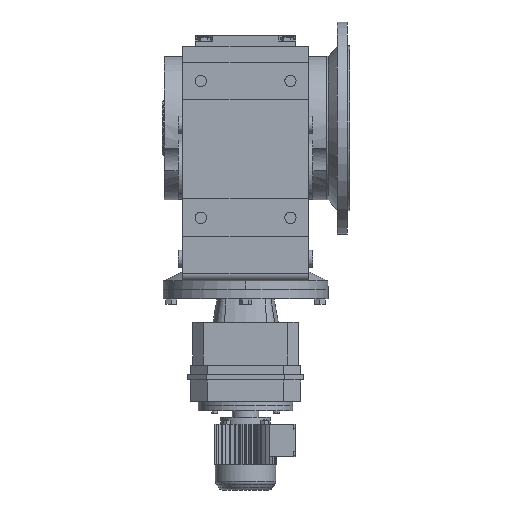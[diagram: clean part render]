
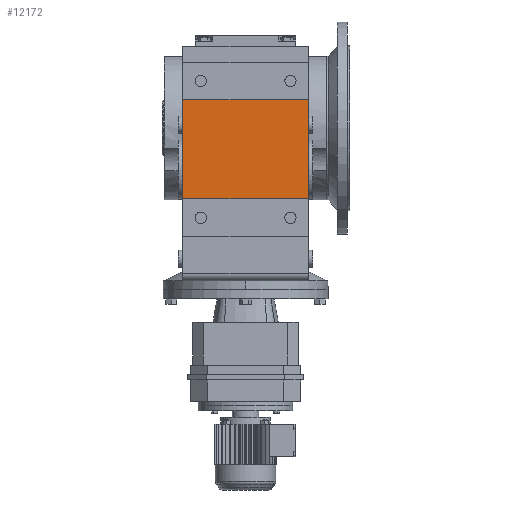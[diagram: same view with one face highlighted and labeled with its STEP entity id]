
A CAD part, front view. The second image highlights one B-rep face of the part: STEP entity #12172.
In plain terms, the highlighted planar face has unit normal (0, -1, 0).
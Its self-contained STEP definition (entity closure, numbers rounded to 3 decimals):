
#1055 = PLANE('',#1056);
#1056 = AXIS2_PLACEMENT_3D('',#1057,#1058,#1059);
#1057 = CARTESIAN_POINT('',(-133.,-287.975,-307.95));
#1058 = DIRECTION('',(-1.,0.,0.));
#1059 = DIRECTION('',(0.,0.,1.));
#5698 = VERTEX_POINT('',#5699);
#5699 = CARTESIAN_POINT('',(-133.,-303.975,-150.));
#5713 = PLANE('',#5714);
#5714 = AXIS2_PLACEMENT_3D('',#5715,#5716,#5717);
#5715 = CARTESIAN_POINT('',(-133.,-303.975,-150.));
#5716 = DIRECTION('',(0.,0.,1.));
#5717 = DIRECTION('',(0.,-1.,0.));
#5725 = EDGE_CURVE('',#5726,#5698,#5728,.T.);
#5726 = VERTEX_POINT('',#5727);
#5727 = CARTESIAN_POINT('',(-133.,-303.975,60.));
#5728 = SURFACE_CURVE('',#5729,(#5733,#5740),.PCURVE_S1.);
#5729 = LINE('',#5730,#5731);
#5730 = CARTESIAN_POINT('',(-133.,-303.975,60.));
#5731 = VECTOR('',#5732,1.);
#5732 = DIRECTION('',(0.,0.,-1.));
#5733 = PCURVE('',#1055,#5734);
#5734 = DEFINITIONAL_REPRESENTATION('',(#5735),#5739);
#5735 = LINE('',#5736,#5737);
#5736 = CARTESIAN_POINT('',(367.95,-16.));
#5737 = VECTOR('',#5738,1.);
#5738 = DIRECTION('',(-1.,0.));
#5739 = ( GEOMETRIC_REPRESENTATION_CONTEXT(2) 
PARAMETRIC_REPRESENTATION_CONTEXT() REPRESENTATION_CONTEXT('2D SPACE',''
  ) );
#5740 = PCURVE('',#5741,#5746);
#5741 = PLANE('',#5742);
#5742 = AXIS2_PLACEMENT_3D('',#5743,#5744,#5745);
#5743 = CARTESIAN_POINT('',(-133.,-303.975,60.));
#5744 = DIRECTION('',(0.,-1.,0.));
#5745 = DIRECTION('',(0.,0.,-1.));
#5746 = DEFINITIONAL_REPRESENTATION('',(#5747),#5751);
#5747 = LINE('',#5748,#5749);
#5748 = CARTESIAN_POINT('',(0.,0.));
#5749 = VECTOR('',#5750,1.);
#5750 = DIRECTION('',(1.,0.));
#5751 = ( GEOMETRIC_REPRESENTATION_CONTEXT(2) 
PARAMETRIC_REPRESENTATION_CONTEXT() REPRESENTATION_CONTEXT('2D SPACE',''
  ) );
#5769 = PLANE('',#5770);
#5770 = AXIS2_PLACEMENT_3D('',#5771,#5772,#5773);
#5771 = CARTESIAN_POINT('',(-133.,-303.975,60.));
#5772 = DIRECTION('',(0.,0.,-1.));
#5773 = DIRECTION('',(-1.,0.,0.));
#10232 = PLANE('',#10233);
#10233 = AXIS2_PLACEMENT_3D('',#10234,#10235,#10236);
#10234 = CARTESIAN_POINT('',(133.,-287.975,-307.95));
#10235 = DIRECTION('',(-1.,0.,0.));
#10236 = DIRECTION('',(0.,0.,1.));
#11240 = VERTEX_POINT('',#11241);
#11241 = CARTESIAN_POINT('',(133.,-303.975,-150.));
#11262 = EDGE_CURVE('',#5698,#11240,#11263,.T.);
#11263 = SURFACE_CURVE('',#11264,(#11268,#11275),.PCURVE_S1.);
#11264 = LINE('',#11265,#11266);
#11265 = CARTESIAN_POINT('',(-133.,-303.975,-150.));
#11266 = VECTOR('',#11267,1.);
#11267 = DIRECTION('',(1.,0.,0.));
#11268 = PCURVE('',#5713,#11269);
#11269 = DEFINITIONAL_REPRESENTATION('',(#11270),#11274);
#11270 = LINE('',#11271,#11272);
#11271 = CARTESIAN_POINT('',(0.,0.));
#11272 = VECTOR('',#11273,1.);
#11273 = DIRECTION('',(0.,1.));
#11274 = ( GEOMETRIC_REPRESENTATION_CONTEXT(2) 
PARAMETRIC_REPRESENTATION_CONTEXT() REPRESENTATION_CONTEXT('2D SPACE',''
  ) );
#11275 = PCURVE('',#5741,#11276);
#11276 = DEFINITIONAL_REPRESENTATION('',(#11277),#11281);
#11277 = LINE('',#11278,#11279);
#11278 = CARTESIAN_POINT('',(210.,0.));
#11279 = VECTOR('',#11280,1.);
#11280 = DIRECTION('',(0.,1.));
#11281 = ( GEOMETRIC_REPRESENTATION_CONTEXT(2) 
PARAMETRIC_REPRESENTATION_CONTEXT() REPRESENTATION_CONTEXT('2D SPACE',''
  ) );
#11787 = EDGE_CURVE('',#5726,#11788,#11790,.T.);
#11788 = VERTEX_POINT('',#11789);
#11789 = CARTESIAN_POINT('',(133.,-303.975,60.));
#11790 = SURFACE_CURVE('',#11791,(#11795,#11802),.PCURVE_S1.);
#11791 = LINE('',#11792,#11793);
#11792 = CARTESIAN_POINT('',(-133.,-303.975,60.));
#11793 = VECTOR('',#11794,1.);
#11794 = DIRECTION('',(1.,0.,0.));
#11795 = PCURVE('',#5769,#11796);
#11796 = DEFINITIONAL_REPRESENTATION('',(#11797),#11801);
#11797 = LINE('',#11798,#11799);
#11798 = CARTESIAN_POINT('',(0.,0.));
#11799 = VECTOR('',#11800,1.);
#11800 = DIRECTION('',(-1.,0.));
#11801 = ( GEOMETRIC_REPRESENTATION_CONTEXT(2) 
PARAMETRIC_REPRESENTATION_CONTEXT() REPRESENTATION_CONTEXT('2D SPACE',''
  ) );
#11802 = PCURVE('',#5741,#11803);
#11803 = DEFINITIONAL_REPRESENTATION('',(#11804),#11808);
#11804 = LINE('',#11805,#11806);
#11805 = CARTESIAN_POINT('',(0.,0.));
#11806 = VECTOR('',#11807,1.);
#11807 = DIRECTION('',(0.,1.));
#11808 = ( GEOMETRIC_REPRESENTATION_CONTEXT(2) 
PARAMETRIC_REPRESENTATION_CONTEXT() REPRESENTATION_CONTEXT('2D SPACE',''
  ) );
#12172 = ADVANCED_FACE('',(#12173),#5741,.T.);
#12173 = FACE_BOUND('',#12174,.T.);
#12174 = EDGE_LOOP('',(#12175,#12176,#12197,#12198));
#12175 = ORIENTED_EDGE('',*,*,#11262,.T.);
#12176 = ORIENTED_EDGE('',*,*,#12177,.F.);
#12177 = EDGE_CURVE('',#11788,#11240,#12178,.T.);
#12178 = SURFACE_CURVE('',#12179,(#12183,#12190),.PCURVE_S1.);
#12179 = LINE('',#12180,#12181);
#12180 = CARTESIAN_POINT('',(133.,-303.975,60.));
#12181 = VECTOR('',#12182,1.);
#12182 = DIRECTION('',(0.,0.,-1.));
#12183 = PCURVE('',#5741,#12184);
#12184 = DEFINITIONAL_REPRESENTATION('',(#12185),#12189);
#12185 = LINE('',#12186,#12187);
#12186 = CARTESIAN_POINT('',(0.,266.));
#12187 = VECTOR('',#12188,1.);
#12188 = DIRECTION('',(1.,0.));
#12189 = ( GEOMETRIC_REPRESENTATION_CONTEXT(2) 
PARAMETRIC_REPRESENTATION_CONTEXT() REPRESENTATION_CONTEXT('2D SPACE',''
  ) );
#12190 = PCURVE('',#10232,#12191);
#12191 = DEFINITIONAL_REPRESENTATION('',(#12192),#12196);
#12192 = LINE('',#12193,#12194);
#12193 = CARTESIAN_POINT('',(367.95,-16.));
#12194 = VECTOR('',#12195,1.);
#12195 = DIRECTION('',(-1.,0.));
#12196 = ( GEOMETRIC_REPRESENTATION_CONTEXT(2) 
PARAMETRIC_REPRESENTATION_CONTEXT() REPRESENTATION_CONTEXT('2D SPACE',''
  ) );
#12197 = ORIENTED_EDGE('',*,*,#11787,.F.);
#12198 = ORIENTED_EDGE('',*,*,#5725,.T.);
